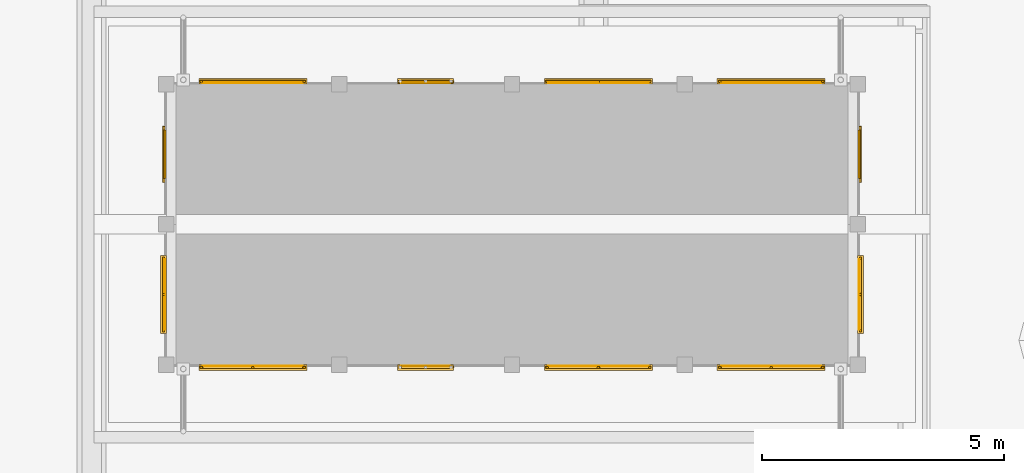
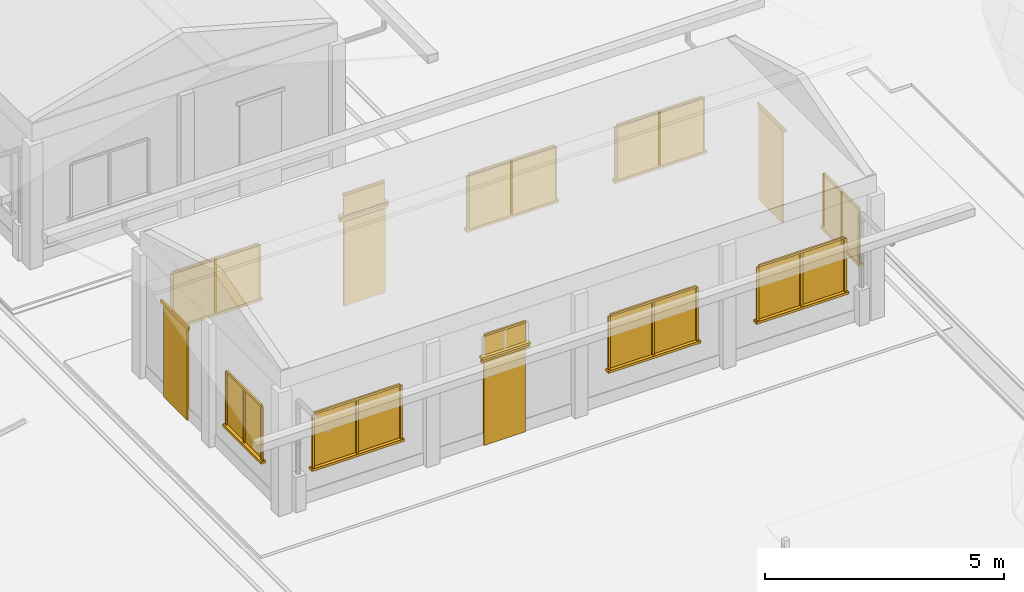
# One storey, part 46 of 177: 54 windows, 8 doors.
"""IFC4 building model written with IfcOpenShell, lengths in metres."""

from ifc_helpers import new_model, si_unit, origin, origin_with_axes, place, context, subcontext, project, spatial, triangles, element, save


model = new_model("IFC4")

# Units and contexts
model_context = context("Model", 3, precision=1e-05, world=origin_with_axes())
body_context = subcontext(model_context, "Body", "Model", "MODEL_VIEW")
ifc_project = project(units=[si_unit("LENGTHUNIT", "METRE"), si_unit("AREAUNIT", "SQUARE_METRE"), si_unit("VOLUMEUNIT", "CUBIC_METRE"), si_unit("PLANEANGLEUNIT", "RADIAN")], contexts=[model_context])

# Site, building, storey
site_placement = place(None, origin_with_axes())
site = spatial("IfcSite", under=ifc_project, at=site_placement, Name="Predio Los Mangos - Morales, San Martín", CompositionType="ELEMENT")
building_placement = place(site_placement, origin())
building = spatial("IfcBuilding", under=site, at=building_placement, Name="Hogar de Refugio Temporal", CompositionType="ELEMENT")
storey_placement = place(building_placement, origin())
storey = spatial("IfcBuildingStorey", under=building, at=storey_placement, Name="NIVEL 1 (NPT +0.00)", CompositionType="ELEMENT", Elevation=0.0)

# Windows
window_1_placement = place(storey_placement, origin())
element("IfcWindow", 1, at=window_1_placement, inside=storey, Name="E-03_v0_vid", ObjectType="Ventana", PredefinedType="WINDOW", context=body_context, shape_type="Tessellation", body=[
    triangles([(46.0508, 32.46, 1.05), (48.1242, 32.46, 1.05), (48.1242, 32.48, 1.05), (46.0508, 32.48, 1.05), (46.0508, 32.46, 2.4), (48.1242, 32.46, 2.4), (48.1242, 32.48, 2.4), (46.0508, 32.48, 2.4)], [[1, 4, 3], [1, 3, 2], [5, 6, 7], [5, 7, 8], [1, 2, 6], [1, 6, 5], [2, 3, 7], [2, 7, 6], [3, 4, 8], [3, 8, 7], [4, 1, 5], [4, 5, 8]]),
])
window_2_placement = place(storey_placement, origin())
element("IfcWindow", 2, at=window_2_placement, inside=storey, Name="E-03_v0_m", ObjectType="Ventana", PredefinedType="WINDOW", context=body_context, shape_type="Tessellation", body=[
    triangles([(46.0008, 32.42, 1.05), (46.0508, 32.42, 1.05), (46.0508, 32.46, 1.05), (46.0008, 32.46, 1.05), (46.0008, 32.42, 2.4), (46.0508, 32.42, 2.4), (46.0508, 32.46, 2.4), (46.0008, 32.46, 2.4)], [[1, 4, 3], [1, 3, 2], [5, 6, 7], [5, 7, 8], [1, 2, 6], [1, 6, 5], [2, 3, 7], [2, 7, 6], [3, 4, 8], [3, 8, 7], [4, 1, 5], [4, 5, 8]]),
])
window_3_placement = place(storey_placement, origin())
element("IfcWindow", 3, at=window_3_placement, inside=storey, Name="E-03_v0_m", ObjectType="Ventana", PredefinedType="WINDOW", context=body_context, shape_type="Tessellation", body=[
    triangles([(48.1242, 32.42, 1.05), (48.1743, 32.42, 1.05), (48.1743, 32.46, 1.05), (48.1242, 32.46, 1.05), (48.1242, 32.42, 2.4), (48.1743, 32.42, 2.4), (48.1743, 32.46, 2.4), (48.1242, 32.46, 2.4)], [[1, 4, 3], [1, 3, 2], [5, 6, 7], [5, 7, 8], [1, 2, 6], [1, 6, 5], [2, 3, 7], [2, 7, 6], [3, 4, 8], [3, 8, 7], [4, 1, 5], [4, 5, 8]]),
])
window_4_placement = place(storey_placement, origin())
element("IfcWindow", 4, at=window_4_placement, inside=storey, Name="E-03_v0_m", ObjectType="Ventana", PredefinedType="WINDOW", context=body_context, shape_type="Tessellation", body=[
    triangles([(46.0508, 32.42, 2.4), (48.1242, 32.42, 2.4), (48.1242, 32.46, 2.4), (46.0508, 32.46, 2.4), (46.0508, 32.42, 2.45), (48.1242, 32.42, 2.45), (48.1242, 32.46, 2.45), (46.0508, 32.46, 2.45)], [[1, 4, 3], [1, 3, 2], [5, 6, 7], [5, 7, 8], [1, 2, 6], [1, 6, 5], [2, 3, 7], [2, 7, 6], [3, 4, 8], [3, 8, 7], [4, 1, 5], [4, 5, 8]]),
])
window_5_placement = place(storey_placement, origin())
element("IfcWindow", 5, at=window_5_placement, inside=storey, Name="E-03_v0_m", ObjectType="Ventana", PredefinedType="WINDOW", context=body_context, shape_type="Tessellation", body=[
    triangles([(47.0625, 32.42, 1.05), (47.1125, 32.42, 1.05), (47.1125, 32.46, 1.05), (47.0625, 32.46, 1.05), (47.0625, 32.42, 2.4), (47.1125, 32.42, 2.4), (47.1125, 32.46, 2.4), (47.0625, 32.46, 2.4)], [[1, 4, 3], [1, 3, 2], [5, 6, 7], [5, 7, 8], [1, 2, 6], [1, 6, 5], [2, 3, 7], [2, 7, 6], [3, 4, 8], [3, 8, 7], [4, 1, 5], [4, 5, 8]]),
])
window_6_placement = place(storey_placement, origin())
element("IfcWindow", 6, at=window_6_placement, inside=storey, Name="E-03_v0_alf", ObjectType="Ventana", PredefinedType="WINDOW", context=body_context, shape_type="Tessellation", body=[
    triangles([(45.9707, 32.5, 0.99), (48.2043, 32.5, 0.99), (48.2043, 32.38, 0.99), (45.9707, 32.38, 0.99), (45.9707, 32.5, 1.05), (48.2043, 32.5, 1.05), (48.2043, 32.38, 1.05), (45.9707, 32.38, 1.05)], [[1, 4, 3], [1, 3, 2], [5, 6, 7], [5, 7, 8], [1, 2, 6], [1, 6, 5], [2, 3, 7], [2, 7, 6], [3, 4, 8], [3, 8, 7], [4, 1, 5], [4, 5, 8]]),
])

# Doors
door_1_placement = place(storey_placement, origin())
element("IfcDoor", 7, at=door_1_placement, inside=storey, Name="E-03_p1", ObjectType="Puerta", PredefinedType="DOOR", context=body_context, shape_type="Tessellation", body=[
    triangles([(50.1625, 32.45, 0.15), (51.1625, 32.45, 0.15), (51.1625, 32.49, 0.15), (50.1625, 32.49, 0.15), (50.1625, 32.45, 2.3), (51.1625, 32.45, 2.3), (51.1625, 32.49, 2.3), (50.1625, 32.49, 2.3)], [[1, 4, 3], [1, 3, 2], [5, 6, 7], [5, 7, 8], [1, 2, 6], [1, 6, 5], [2, 3, 7], [2, 7, 6], [3, 4, 8], [3, 8, 7], [4, 1, 5], [4, 5, 8]]),
])
door_2_placement = place(storey_placement, origin())
element("IfcDoor", 8, at=door_2_placement, inside=storey, Name="E-03_p1_marco", ObjectType="Puerta", PredefinedType="DOOR", context=body_context, shape_type="Tessellation", body=[
    triangles([(50.0825, 32.43, 2.3), (51.2425, 32.43, 2.3), (51.2425, 32.47, 2.3), (50.0825, 32.47, 2.3), (50.0825, 32.43, 2.38), (51.2425, 32.43, 2.38), (51.2425, 32.47, 2.38), (50.0825, 32.47, 2.38)], [[1, 4, 3], [1, 3, 2], [5, 6, 7], [5, 7, 8], [1, 2, 6], [1, 6, 5], [2, 3, 7], [2, 7, 6], [3, 4, 8], [3, 8, 7], [4, 1, 5], [4, 5, 8]]),
])

# Windows
window_7_placement = place(storey_placement, origin())
element("IfcWindow", 9, at=window_7_placement, inside=storey, Name="E-03_vt1_vid", ObjectType="Ventana", PredefinedType="WINDOW", context=body_context, shape_type="Tessellation", body=[
    triangles([(50.1625, 32.46, 2.45), (51.1625, 32.46, 2.45), (51.1625, 32.48, 2.45), (50.1625, 32.48, 2.45), (50.1625, 32.46, 2.95), (51.1625, 32.46, 2.95), (51.1625, 32.48, 2.95), (50.1625, 32.48, 2.95)], [[1, 4, 3], [1, 3, 2], [5, 6, 7], [5, 7, 8], [1, 2, 6], [1, 6, 5], [2, 3, 7], [2, 7, 6], [3, 4, 8], [3, 8, 7], [4, 1, 5], [4, 5, 8]]),
])
window_8_placement = place(storey_placement, origin())
element("IfcWindow", 10, at=window_8_placement, inside=storey, Name="E-03_vt1_m", ObjectType="Ventana", PredefinedType="WINDOW", context=body_context, shape_type="Tessellation", body=[
    triangles([(50.1625, 32.42, 2.95), (51.1625, 32.42, 2.95), (51.1625, 32.46, 2.95), (50.1625, 32.46, 2.95), (50.1625, 32.42, 3.0), (51.1625, 32.42, 3.0), (51.1625, 32.46, 3.0), (50.1625, 32.46, 3.0)], [[1, 4, 3], [1, 3, 2], [5, 6, 7], [5, 7, 8], [1, 2, 6], [1, 6, 5], [2, 3, 7], [2, 7, 6], [3, 4, 8], [3, 8, 7], [4, 1, 5], [4, 5, 8]]),
])
window_9_placement = place(storey_placement, origin())
element("IfcWindow", 11, at=window_9_placement, inside=storey, Name="E-03_vt1_alf", ObjectType="Ventana", PredefinedType="WINDOW", context=body_context, shape_type="Tessellation", body=[
    triangles([(50.0825, 32.5, 2.39), (51.2425, 32.5, 2.39), (51.2425, 32.38, 2.39), (50.0825, 32.38, 2.39), (50.0825, 32.5, 2.45), (51.2425, 32.5, 2.45), (51.2425, 32.38, 2.45), (50.0825, 32.38, 2.45)], [[1, 4, 3], [1, 3, 2], [5, 6, 7], [5, 7, 8], [1, 2, 6], [1, 6, 5], [2, 3, 7], [2, 7, 6], [3, 4, 8], [3, 8, 7], [4, 1, 5], [4, 5, 8]]),
])
window_10_placement = place(storey_placement, origin())
element("IfcWindow", 12, at=window_10_placement, inside=storey, Name="E-03_v2_vid", ObjectType="Ventana", PredefinedType="WINDOW", context=body_context, shape_type="Tessellation", body=[
    triangles([(53.2007, 32.46, 1.05), (55.2743, 32.46, 1.05), (55.2743, 32.48, 1.05), (53.2007, 32.48, 1.05), (53.2007, 32.46, 2.4), (55.2743, 32.46, 2.4), (55.2743, 32.48, 2.4), (53.2007, 32.48, 2.4)], [[1, 4, 3], [1, 3, 2], [5, 6, 7], [5, 7, 8], [1, 2, 6], [1, 6, 5], [2, 3, 7], [2, 7, 6], [3, 4, 8], [3, 8, 7], [4, 1, 5], [4, 5, 8]]),
])
window_11_placement = place(storey_placement, origin())
element("IfcWindow", 13, at=window_11_placement, inside=storey, Name="E-03_v2_m", ObjectType="Ventana", PredefinedType="WINDOW", context=body_context, shape_type="Tessellation", body=[
    triangles([(53.1507, 32.42, 1.05), (53.2007, 32.42, 1.05), (53.2007, 32.46, 1.05), (53.1507, 32.46, 1.05), (53.1507, 32.42, 2.4), (53.2007, 32.42, 2.4), (53.2007, 32.46, 2.4), (53.1507, 32.46, 2.4)], [[1, 4, 3], [1, 3, 2], [5, 6, 7], [5, 7, 8], [1, 2, 6], [1, 6, 5], [2, 3, 7], [2, 7, 6], [3, 4, 8], [3, 8, 7], [4, 1, 5], [4, 5, 8]]),
])
window_12_placement = place(storey_placement, origin())
element("IfcWindow", 14, at=window_12_placement, inside=storey, Name="E-03_v2_m", ObjectType="Ventana", PredefinedType="WINDOW", context=body_context, shape_type="Tessellation", body=[
    triangles([(55.2743, 32.42, 1.05), (55.3242, 32.42, 1.05), (55.3242, 32.46, 1.05), (55.2743, 32.46, 1.05), (55.2743, 32.42, 2.4), (55.3242, 32.42, 2.4), (55.3242, 32.46, 2.4), (55.2743, 32.46, 2.4)], [[1, 4, 3], [1, 3, 2], [5, 6, 7], [5, 7, 8], [1, 2, 6], [1, 6, 5], [2, 3, 7], [2, 7, 6], [3, 4, 8], [3, 8, 7], [4, 1, 5], [4, 5, 8]]),
])
window_13_placement = place(storey_placement, origin())
element("IfcWindow", 15, at=window_13_placement, inside=storey, Name="E-03_v2_m", ObjectType="Ventana", PredefinedType="WINDOW", context=body_context, shape_type="Tessellation", body=[
    triangles([(53.2007, 32.42, 2.4), (55.2743, 32.42, 2.4), (55.2743, 32.46, 2.4), (53.2007, 32.46, 2.4), (53.2007, 32.42, 2.45), (55.2743, 32.42, 2.45), (55.2743, 32.46, 2.45), (53.2007, 32.46, 2.45)], [[1, 4, 3], [1, 3, 2], [5, 6, 7], [5, 7, 8], [1, 2, 6], [1, 6, 5], [2, 3, 7], [2, 7, 6], [3, 4, 8], [3, 8, 7], [4, 1, 5], [4, 5, 8]]),
])
window_14_placement = place(storey_placement, origin())
element("IfcWindow", 16, at=window_14_placement, inside=storey, Name="E-03_v2_m", ObjectType="Ventana", PredefinedType="WINDOW", context=body_context, shape_type="Tessellation", body=[
    triangles([(54.2125, 32.42, 1.05), (54.2625, 32.42, 1.05), (54.2625, 32.46, 1.05), (54.2125, 32.46, 1.05), (54.2125, 32.42, 2.4), (54.2625, 32.42, 2.4), (54.2625, 32.46, 2.4), (54.2125, 32.46, 2.4)], [[1, 4, 3], [1, 3, 2], [5, 6, 7], [5, 7, 8], [1, 2, 6], [1, 6, 5], [2, 3, 7], [2, 7, 6], [3, 4, 8], [3, 8, 7], [4, 1, 5], [4, 5, 8]]),
])
window_15_placement = place(storey_placement, origin())
element("IfcWindow", 17, at=window_15_placement, inside=storey, Name="E-03_v2_alf", ObjectType="Ventana", PredefinedType="WINDOW", context=body_context, shape_type="Tessellation", body=[
    triangles([(53.1208, 32.5, 0.99), (55.3543, 32.5, 0.99), (55.3543, 32.38, 0.99), (53.1208, 32.38, 0.99), (53.1208, 32.5, 1.05), (55.3543, 32.5, 1.05), (55.3543, 32.38, 1.05), (53.1208, 32.38, 1.05)], [[1, 4, 3], [1, 3, 2], [5, 6, 7], [5, 7, 8], [1, 2, 6], [1, 6, 5], [2, 3, 7], [2, 7, 6], [3, 4, 8], [3, 8, 7], [4, 1, 5], [4, 5, 8]]),
])
window_16_placement = place(storey_placement, origin())
element("IfcWindow", 18, at=window_16_placement, inside=storey, Name="E-03_v3_vid", ObjectType="Ventana", PredefinedType="WINDOW", context=body_context, shape_type="Tessellation", body=[
    triangles([(56.7757, 32.46, 1.05), (58.8493, 32.46, 1.05), (58.8493, 32.48, 1.05), (56.7757, 32.48, 1.05), (56.7757, 32.46, 2.4), (58.8493, 32.46, 2.4), (58.8493, 32.48, 2.4), (56.7757, 32.48, 2.4)], [[1, 4, 3], [1, 3, 2], [5, 6, 7], [5, 7, 8], [1, 2, 6], [1, 6, 5], [2, 3, 7], [2, 7, 6], [3, 4, 8], [3, 8, 7], [4, 1, 5], [4, 5, 8]]),
])
window_17_placement = place(storey_placement, origin())
element("IfcWindow", 19, at=window_17_placement, inside=storey, Name="E-03_v3_m", ObjectType="Ventana", PredefinedType="WINDOW", context=body_context, shape_type="Tessellation", body=[
    triangles([(56.7257, 32.42, 1.05), (56.7757, 32.42, 1.05), (56.7757, 32.46, 1.05), (56.7257, 32.46, 1.05), (56.7257, 32.42, 2.4), (56.7757, 32.42, 2.4), (56.7757, 32.46, 2.4), (56.7257, 32.46, 2.4)], [[1, 4, 3], [1, 3, 2], [5, 6, 7], [5, 7, 8], [1, 2, 6], [1, 6, 5], [2, 3, 7], [2, 7, 6], [3, 4, 8], [3, 8, 7], [4, 1, 5], [4, 5, 8]]),
])
window_18_placement = place(storey_placement, origin())
element("IfcWindow", 20, at=window_18_placement, inside=storey, Name="E-03_v3_m", ObjectType="Ventana", PredefinedType="WINDOW", context=body_context, shape_type="Tessellation", body=[
    triangles([(58.8493, 32.42, 1.05), (58.8993, 32.42, 1.05), (58.8993, 32.46, 1.05), (58.8493, 32.46, 1.05), (58.8493, 32.42, 2.4), (58.8993, 32.42, 2.4), (58.8993, 32.46, 2.4), (58.8493, 32.46, 2.4)], [[1, 4, 3], [1, 3, 2], [5, 6, 7], [5, 7, 8], [1, 2, 6], [1, 6, 5], [2, 3, 7], [2, 7, 6], [3, 4, 8], [3, 8, 7], [4, 1, 5], [4, 5, 8]]),
])
window_19_placement = place(storey_placement, origin())
element("IfcWindow", 21, at=window_19_placement, inside=storey, Name="E-03_v3_m", ObjectType="Ventana", PredefinedType="WINDOW", context=body_context, shape_type="Tessellation", body=[
    triangles([(56.7757, 32.42, 2.4), (58.8493, 32.42, 2.4), (58.8493, 32.46, 2.4), (56.7757, 32.46, 2.4), (56.7757, 32.42, 2.45), (58.8493, 32.42, 2.45), (58.8493, 32.46, 2.45), (56.7757, 32.46, 2.45)], [[1, 4, 3], [1, 3, 2], [5, 6, 7], [5, 7, 8], [1, 2, 6], [1, 6, 5], [2, 3, 7], [2, 7, 6], [3, 4, 8], [3, 8, 7], [4, 1, 5], [4, 5, 8]]),
])
window_20_placement = place(storey_placement, origin())
element("IfcWindow", 22, at=window_20_placement, inside=storey, Name="E-03_v3_m", ObjectType="Ventana", PredefinedType="WINDOW", context=body_context, shape_type="Tessellation", body=[
    triangles([(57.7875, 32.42, 1.05), (57.8375, 32.42, 1.05), (57.8375, 32.46, 1.05), (57.7875, 32.46, 1.05), (57.7875, 32.42, 2.4), (57.8375, 32.42, 2.4), (57.8375, 32.46, 2.4), (57.7875, 32.46, 2.4)], [[1, 4, 3], [1, 3, 2], [5, 6, 7], [5, 7, 8], [1, 2, 6], [1, 6, 5], [2, 3, 7], [2, 7, 6], [3, 4, 8], [3, 8, 7], [4, 1, 5], [4, 5, 8]]),
])
window_21_placement = place(storey_placement, origin())
element("IfcWindow", 23, at=window_21_placement, inside=storey, Name="E-03_v3_alf", ObjectType="Ventana", PredefinedType="WINDOW", context=body_context, shape_type="Tessellation", body=[
    triangles([(56.6958, 32.5, 0.99), (58.9292, 32.5, 0.99), (58.9292, 32.38, 0.99), (56.6958, 32.38, 0.99), (56.6958, 32.5, 1.05), (58.9292, 32.5, 1.05), (58.9292, 32.38, 1.05), (56.6958, 32.38, 1.05)], [[1, 4, 3], [1, 3, 2], [5, 6, 7], [5, 7, 8], [1, 2, 6], [1, 6, 5], [2, 3, 7], [2, 7, 6], [3, 4, 8], [3, 8, 7], [4, 1, 5], [4, 5, 8]]),
])
window_22_placement = place(storey_placement, origin())
element("IfcWindow", 24, at=window_22_placement, inside=storey, Name="E-03_v0_vid", ObjectType="Ventana", PredefinedType="WINDOW", context=body_context, shape_type="Tessellation", body=[
    triangles([(46.0508, 38.32, 1.05), (48.1242, 38.32, 1.05), (48.1242, 38.34, 1.05), (46.0508, 38.34, 1.05), (46.0508, 38.32, 2.4), (48.1242, 38.32, 2.4), (48.1242, 38.34, 2.4), (46.0508, 38.34, 2.4)], [[1, 4, 3], [1, 3, 2], [5, 6, 7], [5, 7, 8], [1, 2, 6], [1, 6, 5], [2, 3, 7], [2, 7, 6], [3, 4, 8], [3, 8, 7], [4, 1, 5], [4, 5, 8]]),
])
window_23_placement = place(storey_placement, origin())
element("IfcWindow", 25, at=window_23_placement, inside=storey, Name="E-03_v0_m", ObjectType="Ventana", PredefinedType="WINDOW", context=body_context, shape_type="Tessellation", body=[
    triangles([(46.0008, 38.34, 1.05), (46.0508, 38.34, 1.05), (46.0508, 38.38, 1.05), (46.0008, 38.38, 1.05), (46.0008, 38.34, 2.4), (46.0508, 38.34, 2.4), (46.0508, 38.38, 2.4), (46.0008, 38.38, 2.4)], [[1, 4, 3], [1, 3, 2], [5, 6, 7], [5, 7, 8], [1, 2, 6], [1, 6, 5], [2, 3, 7], [2, 7, 6], [3, 4, 8], [3, 8, 7], [4, 1, 5], [4, 5, 8]]),
])
window_24_placement = place(storey_placement, origin())
element("IfcWindow", 26, at=window_24_placement, inside=storey, Name="E-03_v0_m", ObjectType="Ventana", PredefinedType="WINDOW", context=body_context, shape_type="Tessellation", body=[
    triangles([(48.1242, 38.34, 1.05), (48.1743, 38.34, 1.05), (48.1743, 38.38, 1.05), (48.1242, 38.38, 1.05), (48.1242, 38.34, 2.4), (48.1743, 38.34, 2.4), (48.1743, 38.38, 2.4), (48.1242, 38.38, 2.4)], [[1, 4, 3], [1, 3, 2], [5, 6, 7], [5, 7, 8], [1, 2, 6], [1, 6, 5], [2, 3, 7], [2, 7, 6], [3, 4, 8], [3, 8, 7], [4, 1, 5], [4, 5, 8]]),
])
window_25_placement = place(storey_placement, origin())
element("IfcWindow", 27, at=window_25_placement, inside=storey, Name="E-03_v0_m", ObjectType="Ventana", PredefinedType="WINDOW", context=body_context, shape_type="Tessellation", body=[
    triangles([(46.0508, 38.34, 2.4), (48.1242, 38.34, 2.4), (48.1242, 38.38, 2.4), (46.0508, 38.38, 2.4), (46.0508, 38.34, 2.45), (48.1242, 38.34, 2.45), (48.1242, 38.38, 2.45), (46.0508, 38.38, 2.45)], [[1, 4, 3], [1, 3, 2], [5, 6, 7], [5, 7, 8], [1, 2, 6], [1, 6, 5], [2, 3, 7], [2, 7, 6], [3, 4, 8], [3, 8, 7], [4, 1, 5], [4, 5, 8]]),
])
window_26_placement = place(storey_placement, origin())
element("IfcWindow", 28, at=window_26_placement, inside=storey, Name="E-03_v0_m", ObjectType="Ventana", PredefinedType="WINDOW", context=body_context, shape_type="Tessellation", body=[
    triangles([(47.0625, 38.34, 1.05), (47.1125, 38.34, 1.05), (47.1125, 38.38, 1.05), (47.0625, 38.38, 1.05), (47.0625, 38.34, 2.4), (47.1125, 38.34, 2.4), (47.1125, 38.38, 2.4), (47.0625, 38.38, 2.4)], [[1, 4, 3], [1, 3, 2], [5, 6, 7], [5, 7, 8], [1, 2, 6], [1, 6, 5], [2, 3, 7], [2, 7, 6], [3, 4, 8], [3, 8, 7], [4, 1, 5], [4, 5, 8]]),
])
window_27_placement = place(storey_placement, origin())
element("IfcWindow", 29, at=window_27_placement, inside=storey, Name="E-03_v0_alf", ObjectType="Ventana", PredefinedType="WINDOW", context=body_context, shape_type="Tessellation", body=[
    triangles([(45.9707, 38.3, 0.99), (48.2043, 38.3, 0.99), (48.2043, 38.42, 0.99), (45.9707, 38.42, 0.99), (45.9707, 38.3, 1.05), (48.2043, 38.3, 1.05), (48.2043, 38.42, 1.05), (45.9707, 38.42, 1.05)], [[1, 4, 3], [1, 3, 2], [5, 6, 7], [5, 7, 8], [1, 2, 6], [1, 6, 5], [2, 3, 7], [2, 7, 6], [3, 4, 8], [3, 8, 7], [4, 1, 5], [4, 5, 8]]),
])

# Doors
door_3_placement = place(storey_placement, origin())
element("IfcDoor", 30, at=door_3_placement, inside=storey, Name="E-03_p1", ObjectType="Puerta", PredefinedType="DOOR", context=body_context, shape_type="Tessellation", body=[
    triangles([(50.1625, 38.31, 0.15), (51.1625, 38.31, 0.15), (51.1625, 38.35, 0.15), (50.1625, 38.35, 0.15), (50.1625, 38.31, 2.3), (51.1625, 38.31, 2.3), (51.1625, 38.35, 2.3), (50.1625, 38.35, 2.3)], [[1, 4, 3], [1, 3, 2], [5, 6, 7], [5, 7, 8], [1, 2, 6], [1, 6, 5], [2, 3, 7], [2, 7, 6], [3, 4, 8], [3, 8, 7], [4, 1, 5], [4, 5, 8]]),
])
door_4_placement = place(storey_placement, origin())
element("IfcDoor", 31, at=door_4_placement, inside=storey, Name="E-03_p1_marco", ObjectType="Puerta", PredefinedType="DOOR", context=body_context, shape_type="Tessellation", body=[
    triangles([(50.0825, 38.33, 2.3), (51.2425, 38.33, 2.3), (51.2425, 38.37, 2.3), (50.0825, 38.37, 2.3), (50.0825, 38.33, 2.38), (51.2425, 38.33, 2.38), (51.2425, 38.37, 2.38), (50.0825, 38.37, 2.38)], [[1, 4, 3], [1, 3, 2], [5, 6, 7], [5, 7, 8], [1, 2, 6], [1, 6, 5], [2, 3, 7], [2, 7, 6], [3, 4, 8], [3, 8, 7], [4, 1, 5], [4, 5, 8]]),
])

# Windows
window_28_placement = place(storey_placement, origin())
element("IfcWindow", 32, at=window_28_placement, inside=storey, Name="E-03_vt1_vid", ObjectType="Ventana", PredefinedType="WINDOW", context=body_context, shape_type="Tessellation", body=[
    triangles([(50.1625, 38.32, 2.45), (51.1625, 38.32, 2.45), (51.1625, 38.34, 2.45), (50.1625, 38.34, 2.45), (50.1625, 38.32, 2.95), (51.1625, 38.32, 2.95), (51.1625, 38.34, 2.95), (50.1625, 38.34, 2.95)], [[1, 4, 3], [1, 3, 2], [5, 6, 7], [5, 7, 8], [1, 2, 6], [1, 6, 5], [2, 3, 7], [2, 7, 6], [3, 4, 8], [3, 8, 7], [4, 1, 5], [4, 5, 8]]),
])
window_29_placement = place(storey_placement, origin())
element("IfcWindow", 33, at=window_29_placement, inside=storey, Name="E-03_vt1_m", ObjectType="Ventana", PredefinedType="WINDOW", context=body_context, shape_type="Tessellation", body=[
    triangles([(50.1625, 38.34, 2.95), (51.1625, 38.34, 2.95), (51.1625, 38.38, 2.95), (50.1625, 38.38, 2.95), (50.1625, 38.34, 3.0), (51.1625, 38.34, 3.0), (51.1625, 38.38, 3.0), (50.1625, 38.38, 3.0)], [[1, 4, 3], [1, 3, 2], [5, 6, 7], [5, 7, 8], [1, 2, 6], [1, 6, 5], [2, 3, 7], [2, 7, 6], [3, 4, 8], [3, 8, 7], [4, 1, 5], [4, 5, 8]]),
])
window_30_placement = place(storey_placement, origin())
element("IfcWindow", 34, at=window_30_placement, inside=storey, Name="E-03_vt1_alf", ObjectType="Ventana", PredefinedType="WINDOW", context=body_context, shape_type="Tessellation", body=[
    triangles([(50.0825, 38.3, 2.39), (51.2425, 38.3, 2.39), (51.2425, 38.42, 2.39), (50.0825, 38.42, 2.39), (50.0825, 38.3, 2.45), (51.2425, 38.3, 2.45), (51.2425, 38.42, 2.45), (50.0825, 38.42, 2.45)], [[1, 4, 3], [1, 3, 2], [5, 6, 7], [5, 7, 8], [1, 2, 6], [1, 6, 5], [2, 3, 7], [2, 7, 6], [3, 4, 8], [3, 8, 7], [4, 1, 5], [4, 5, 8]]),
])
window_31_placement = place(storey_placement, origin())
element("IfcWindow", 35, at=window_31_placement, inside=storey, Name="E-03_v2_vid", ObjectType="Ventana", PredefinedType="WINDOW", context=body_context, shape_type="Tessellation", body=[
    triangles([(53.2007, 38.32, 1.05), (55.2743, 38.32, 1.05), (55.2743, 38.34, 1.05), (53.2007, 38.34, 1.05), (53.2007, 38.32, 2.4), (55.2743, 38.32, 2.4), (55.2743, 38.34, 2.4), (53.2007, 38.34, 2.4)], [[1, 4, 3], [1, 3, 2], [5, 6, 7], [5, 7, 8], [1, 2, 6], [1, 6, 5], [2, 3, 7], [2, 7, 6], [3, 4, 8], [3, 8, 7], [4, 1, 5], [4, 5, 8]]),
])
window_32_placement = place(storey_placement, origin())
element("IfcWindow", 36, at=window_32_placement, inside=storey, Name="E-03_v2_m", ObjectType="Ventana", PredefinedType="WINDOW", context=body_context, shape_type="Tessellation", body=[
    triangles([(53.1507, 38.34, 1.05), (53.2007, 38.34, 1.05), (53.2007, 38.38, 1.05), (53.1507, 38.38, 1.05), (53.1507, 38.34, 2.4), (53.2007, 38.34, 2.4), (53.2007, 38.38, 2.4), (53.1507, 38.38, 2.4)], [[1, 4, 3], [1, 3, 2], [5, 6, 7], [5, 7, 8], [1, 2, 6], [1, 6, 5], [2, 3, 7], [2, 7, 6], [3, 4, 8], [3, 8, 7], [4, 1, 5], [4, 5, 8]]),
])
window_33_placement = place(storey_placement, origin())
element("IfcWindow", 37, at=window_33_placement, inside=storey, Name="E-03_v2_m", ObjectType="Ventana", PredefinedType="WINDOW", context=body_context, shape_type="Tessellation", body=[
    triangles([(55.2743, 38.34, 1.05), (55.3242, 38.34, 1.05), (55.3242, 38.38, 1.05), (55.2743, 38.38, 1.05), (55.2743, 38.34, 2.4), (55.3242, 38.34, 2.4), (55.3242, 38.38, 2.4), (55.2743, 38.38, 2.4)], [[1, 4, 3], [1, 3, 2], [5, 6, 7], [5, 7, 8], [1, 2, 6], [1, 6, 5], [2, 3, 7], [2, 7, 6], [3, 4, 8], [3, 8, 7], [4, 1, 5], [4, 5, 8]]),
])
window_34_placement = place(storey_placement, origin())
element("IfcWindow", 38, at=window_34_placement, inside=storey, Name="E-03_v2_m", ObjectType="Ventana", PredefinedType="WINDOW", context=body_context, shape_type="Tessellation", body=[
    triangles([(53.2007, 38.34, 2.4), (55.2743, 38.34, 2.4), (55.2743, 38.38, 2.4), (53.2007, 38.38, 2.4), (53.2007, 38.34, 2.45), (55.2743, 38.34, 2.45), (55.2743, 38.38, 2.45), (53.2007, 38.38, 2.45)], [[1, 4, 3], [1, 3, 2], [5, 6, 7], [5, 7, 8], [1, 2, 6], [1, 6, 5], [2, 3, 7], [2, 7, 6], [3, 4, 8], [3, 8, 7], [4, 1, 5], [4, 5, 8]]),
])
window_35_placement = place(storey_placement, origin())
element("IfcWindow", 39, at=window_35_placement, inside=storey, Name="E-03_v2_m", ObjectType="Ventana", PredefinedType="WINDOW", context=body_context, shape_type="Tessellation", body=[
    triangles([(54.2125, 38.34, 1.05), (54.2625, 38.34, 1.05), (54.2625, 38.38, 1.05), (54.2125, 38.38, 1.05), (54.2125, 38.34, 2.4), (54.2625, 38.34, 2.4), (54.2625, 38.38, 2.4), (54.2125, 38.38, 2.4)], [[1, 4, 3], [1, 3, 2], [5, 6, 7], [5, 7, 8], [1, 2, 6], [1, 6, 5], [2, 3, 7], [2, 7, 6], [3, 4, 8], [3, 8, 7], [4, 1, 5], [4, 5, 8]]),
])
window_36_placement = place(storey_placement, origin())
element("IfcWindow", 40, at=window_36_placement, inside=storey, Name="E-03_v2_alf", ObjectType="Ventana", PredefinedType="WINDOW", context=body_context, shape_type="Tessellation", body=[
    triangles([(53.1208, 38.3, 0.99), (55.3543, 38.3, 0.99), (55.3543, 38.42, 0.99), (53.1208, 38.42, 0.99), (53.1208, 38.3, 1.05), (55.3543, 38.3, 1.05), (55.3543, 38.42, 1.05), (53.1208, 38.42, 1.05)], [[1, 4, 3], [1, 3, 2], [5, 6, 7], [5, 7, 8], [1, 2, 6], [1, 6, 5], [2, 3, 7], [2, 7, 6], [3, 4, 8], [3, 8, 7], [4, 1, 5], [4, 5, 8]]),
])
window_37_placement = place(storey_placement, origin())
element("IfcWindow", 41, at=window_37_placement, inside=storey, Name="E-03_v3_vid", ObjectType="Ventana", PredefinedType="WINDOW", context=body_context, shape_type="Tessellation", body=[
    triangles([(56.7757, 38.32, 1.05), (58.8493, 38.32, 1.05), (58.8493, 38.34, 1.05), (56.7757, 38.34, 1.05), (56.7757, 38.32, 2.4), (58.8493, 38.32, 2.4), (58.8493, 38.34, 2.4), (56.7757, 38.34, 2.4)], [[1, 4, 3], [1, 3, 2], [5, 6, 7], [5, 7, 8], [1, 2, 6], [1, 6, 5], [2, 3, 7], [2, 7, 6], [3, 4, 8], [3, 8, 7], [4, 1, 5], [4, 5, 8]]),
])
window_38_placement = place(storey_placement, origin())
element("IfcWindow", 42, at=window_38_placement, inside=storey, Name="E-03_v3_m", ObjectType="Ventana", PredefinedType="WINDOW", context=body_context, shape_type="Tessellation", body=[
    triangles([(56.7257, 38.34, 1.05), (56.7757, 38.34, 1.05), (56.7757, 38.38, 1.05), (56.7257, 38.38, 1.05), (56.7257, 38.34, 2.4), (56.7757, 38.34, 2.4), (56.7757, 38.38, 2.4), (56.7257, 38.38, 2.4)], [[1, 4, 3], [1, 3, 2], [5, 6, 7], [5, 7, 8], [1, 2, 6], [1, 6, 5], [2, 3, 7], [2, 7, 6], [3, 4, 8], [3, 8, 7], [4, 1, 5], [4, 5, 8]]),
])
window_39_placement = place(storey_placement, origin())
element("IfcWindow", 43, at=window_39_placement, inside=storey, Name="E-03_v3_m", ObjectType="Ventana", PredefinedType="WINDOW", context=body_context, shape_type="Tessellation", body=[
    triangles([(58.8493, 38.34, 1.05), (58.8993, 38.34, 1.05), (58.8993, 38.38, 1.05), (58.8493, 38.38, 1.05), (58.8493, 38.34, 2.4), (58.8993, 38.34, 2.4), (58.8993, 38.38, 2.4), (58.8493, 38.38, 2.4)], [[1, 4, 3], [1, 3, 2], [5, 6, 7], [5, 7, 8], [1, 2, 6], [1, 6, 5], [2, 3, 7], [2, 7, 6], [3, 4, 8], [3, 8, 7], [4, 1, 5], [4, 5, 8]]),
])
window_40_placement = place(storey_placement, origin())
element("IfcWindow", 44, at=window_40_placement, inside=storey, Name="E-03_v3_m", ObjectType="Ventana", PredefinedType="WINDOW", context=body_context, shape_type="Tessellation", body=[
    triangles([(56.7757, 38.34, 2.4), (58.8493, 38.34, 2.4), (58.8493, 38.38, 2.4), (56.7757, 38.38, 2.4), (56.7757, 38.34, 2.45), (58.8493, 38.34, 2.45), (58.8493, 38.38, 2.45), (56.7757, 38.38, 2.45)], [[1, 4, 3], [1, 3, 2], [5, 6, 7], [5, 7, 8], [1, 2, 6], [1, 6, 5], [2, 3, 7], [2, 7, 6], [3, 4, 8], [3, 8, 7], [4, 1, 5], [4, 5, 8]]),
])
window_41_placement = place(storey_placement, origin())
element("IfcWindow", 45, at=window_41_placement, inside=storey, Name="E-03_v3_m", ObjectType="Ventana", PredefinedType="WINDOW", context=body_context, shape_type="Tessellation", body=[
    triangles([(57.7875, 38.34, 1.05), (57.8375, 38.34, 1.05), (57.8375, 38.38, 1.05), (57.7875, 38.38, 1.05), (57.7875, 38.34, 2.4), (57.8375, 38.34, 2.4), (57.8375, 38.38, 2.4), (57.7875, 38.38, 2.4)], [[1, 4, 3], [1, 3, 2], [5, 6, 7], [5, 7, 8], [1, 2, 6], [1, 6, 5], [2, 3, 7], [2, 7, 6], [3, 4, 8], [3, 8, 7], [4, 1, 5], [4, 5, 8]]),
])
window_42_placement = place(storey_placement, origin())
element("IfcWindow", 46, at=window_42_placement, inside=storey, Name="E-03_v3_alf", ObjectType="Ventana", PredefinedType="WINDOW", context=body_context, shape_type="Tessellation", body=[
    triangles([(56.6958, 38.3, 0.99), (58.9292, 38.3, 0.99), (58.9292, 38.42, 0.99), (56.6958, 38.42, 0.99), (56.6958, 38.3, 1.05), (58.9292, 38.3, 1.05), (58.9292, 38.42, 1.05), (56.6958, 38.42, 1.05)], [[1, 4, 3], [1, 3, 2], [5, 6, 7], [5, 7, 8], [1, 2, 6], [1, 6, 5], [2, 3, 7], [2, 7, 6], [3, 4, 8], [3, 8, 7], [4, 1, 5], [4, 5, 8]]),
])
window_43_placement = place(storey_placement, origin())
element("IfcWindow", 47, at=window_43_placement, inside=storey, Name="E-03_vg0_vid", ObjectType="Ventana", PredefinedType="WINDOW", context=body_context, shape_type="Tessellation", body=[
    triangles([(45.26, 33.225, 1.05), (45.28, 33.225, 1.05), (45.28, 34.675, 1.05), (45.26, 34.675, 1.05), (45.26, 33.225, 2.4), (45.28, 33.225, 2.4), (45.28, 34.675, 2.4), (45.26, 34.675, 2.4)], [[1, 4, 3], [1, 3, 2], [5, 6, 7], [5, 7, 8], [1, 2, 6], [1, 6, 5], [2, 3, 7], [2, 7, 6], [3, 4, 8], [3, 8, 7], [4, 1, 5], [4, 5, 8]]),
])
window_44_placement = place(storey_placement, origin())
element("IfcWindow", 48, at=window_44_placement, inside=storey, Name="E-03_vg0_m", ObjectType="Ventana", PredefinedType="WINDOW", context=body_context, shape_type="Tessellation", body=[
    triangles([(45.22, 33.175, 1.05), (45.26, 33.175, 1.05), (45.26, 33.225, 1.05), (45.22, 33.225, 1.05), (45.22, 33.175, 2.4), (45.26, 33.175, 2.4), (45.26, 33.225, 2.4), (45.22, 33.225, 2.4)], [[1, 4, 3], [1, 3, 2], [5, 6, 7], [5, 7, 8], [1, 2, 6], [1, 6, 5], [2, 3, 7], [2, 7, 6], [3, 4, 8], [3, 8, 7], [4, 1, 5], [4, 5, 8]]),
])
window_45_placement = place(storey_placement, origin())
element("IfcWindow", 49, at=window_45_placement, inside=storey, Name="E-03_vg0_m", ObjectType="Ventana", PredefinedType="WINDOW", context=body_context, shape_type="Tessellation", body=[
    triangles([(45.22, 34.675, 1.05), (45.26, 34.675, 1.05), (45.26, 34.725, 1.05), (45.22, 34.725, 1.05), (45.22, 34.675, 2.4), (45.26, 34.675, 2.4), (45.26, 34.725, 2.4), (45.22, 34.725, 2.4)], [[1, 4, 3], [1, 3, 2], [5, 6, 7], [5, 7, 8], [1, 2, 6], [1, 6, 5], [2, 3, 7], [2, 7, 6], [3, 4, 8], [3, 8, 7], [4, 1, 5], [4, 5, 8]]),
])
window_46_placement = place(storey_placement, origin())
element("IfcWindow", 50, at=window_46_placement, inside=storey, Name="E-03_vg0_m", ObjectType="Ventana", PredefinedType="WINDOW", context=body_context, shape_type="Tessellation", body=[
    triangles([(45.22, 33.225, 2.4), (45.26, 33.225, 2.4), (45.26, 34.675, 2.4), (45.22, 34.675, 2.4), (45.22, 33.225, 2.45), (45.26, 33.225, 2.45), (45.26, 34.675, 2.45), (45.22, 34.675, 2.45)], [[1, 4, 3], [1, 3, 2], [5, 6, 7], [5, 7, 8], [1, 2, 6], [1, 6, 5], [2, 3, 7], [2, 7, 6], [3, 4, 8], [3, 8, 7], [4, 1, 5], [4, 5, 8]]),
])
window_47_placement = place(storey_placement, origin())
element("IfcWindow", 51, at=window_47_placement, inside=storey, Name="E-03_vg0_m", ObjectType="Ventana", PredefinedType="WINDOW", context=body_context, shape_type="Tessellation", body=[
    triangles([(45.22, 33.925, 1.05), (45.26, 33.925, 1.05), (45.26, 33.975, 1.05), (45.22, 33.975, 1.05), (45.22, 33.925, 2.4), (45.26, 33.925, 2.4), (45.26, 33.975, 2.4), (45.22, 33.975, 2.4)], [[1, 4, 3], [1, 3, 2], [5, 6, 7], [5, 7, 8], [1, 2, 6], [1, 6, 5], [2, 3, 7], [2, 7, 6], [3, 4, 8], [3, 8, 7], [4, 1, 5], [4, 5, 8]]),
])
window_48_placement = place(storey_placement, origin())
element("IfcWindow", 52, at=window_48_placement, inside=storey, Name="E-03_vg0_alf", ObjectType="Ventana", PredefinedType="WINDOW", context=body_context, shape_type="Tessellation", body=[
    triangles([(45.3, 33.145, 0.99), (45.18, 33.145, 0.99), (45.18, 34.755, 0.99), (45.3, 34.755, 0.99), (45.3, 33.145, 1.05), (45.18, 33.145, 1.05), (45.18, 34.755, 1.05), (45.3, 34.755, 1.05)], [[1, 4, 3], [1, 3, 2], [5, 6, 7], [5, 7, 8], [1, 2, 6], [1, 6, 5], [2, 3, 7], [2, 7, 6], [3, 4, 8], [3, 8, 7], [4, 1, 5], [4, 5, 8]]),
])

# Doors
door_5_placement = place(storey_placement, origin())
element("IfcDoor", 53, at=door_5_placement, inside=storey, Name="E-03_pp", ObjectType="Puerta", PredefinedType="DOOR", context=body_context, shape_type="Tessellation", body=[
    triangles([(45.25, 36.35, 0.15), (45.29, 36.35, 0.15), (45.29, 37.35, 0.15), (45.25, 37.35, 0.15), (45.25, 36.35, 2.5), (45.29, 36.35, 2.5), (45.29, 37.35, 2.5), (45.25, 37.35, 2.5)], [[1, 4, 3], [1, 3, 2], [5, 6, 7], [5, 7, 8], [1, 2, 6], [1, 6, 5], [2, 3, 7], [2, 7, 6], [3, 4, 8], [3, 8, 7], [4, 1, 5], [4, 5, 8]]),
])
door_6_placement = place(storey_placement, origin())
element("IfcDoor", 54, at=door_6_placement, inside=storey, Name="E-03_pp_marco", ObjectType="Puerta", PredefinedType="DOOR", context=body_context, shape_type="Tessellation", body=[
    triangles([(45.23, 36.27, 2.5), (45.27, 36.27, 2.5), (45.27, 37.43, 2.5), (45.23, 37.43, 2.5), (45.23, 36.27, 2.58), (45.27, 36.27, 2.58), (45.27, 37.43, 2.58), (45.23, 37.43, 2.58)], [[1, 4, 3], [1, 3, 2], [5, 6, 7], [5, 7, 8], [1, 2, 6], [1, 6, 5], [2, 3, 7], [2, 7, 6], [3, 4, 8], [3, 8, 7], [4, 1, 5], [4, 5, 8]]),
])

# Windows
window_49_placement = place(storey_placement, origin())
element("IfcWindow", 55, at=window_49_placement, inside=storey, Name="E-03_vg0_vid", ObjectType="Ventana", PredefinedType="WINDOW", context=body_context, shape_type="Tessellation", body=[
    triangles([(59.62, 33.225, 1.05), (59.64, 33.225, 1.05), (59.64, 34.675, 1.05), (59.62, 34.675, 1.05), (59.62, 33.225, 2.4), (59.64, 33.225, 2.4), (59.64, 34.675, 2.4), (59.62, 34.675, 2.4)], [[1, 4, 3], [1, 3, 2], [5, 6, 7], [5, 7, 8], [1, 2, 6], [1, 6, 5], [2, 3, 7], [2, 7, 6], [3, 4, 8], [3, 8, 7], [4, 1, 5], [4, 5, 8]]),
])
window_50_placement = place(storey_placement, origin())
element("IfcWindow", 56, at=window_50_placement, inside=storey, Name="E-03_vg0_m", ObjectType="Ventana", PredefinedType="WINDOW", context=body_context, shape_type="Tessellation", body=[
    triangles([(59.64, 33.175, 1.05), (59.68, 33.175, 1.05), (59.68, 33.225, 1.05), (59.64, 33.225, 1.05), (59.64, 33.175, 2.4), (59.68, 33.175, 2.4), (59.68, 33.225, 2.4), (59.64, 33.225, 2.4)], [[1, 4, 3], [1, 3, 2], [5, 6, 7], [5, 7, 8], [1, 2, 6], [1, 6, 5], [2, 3, 7], [2, 7, 6], [3, 4, 8], [3, 8, 7], [4, 1, 5], [4, 5, 8]]),
])
window_51_placement = place(storey_placement, origin())
element("IfcWindow", 57, at=window_51_placement, inside=storey, Name="E-03_vg0_m", ObjectType="Ventana", PredefinedType="WINDOW", context=body_context, shape_type="Tessellation", body=[
    triangles([(59.64, 34.675, 1.05), (59.68, 34.675, 1.05), (59.68, 34.725, 1.05), (59.64, 34.725, 1.05), (59.64, 34.675, 2.4), (59.68, 34.675, 2.4), (59.68, 34.725, 2.4), (59.64, 34.725, 2.4)], [[1, 4, 3], [1, 3, 2], [5, 6, 7], [5, 7, 8], [1, 2, 6], [1, 6, 5], [2, 3, 7], [2, 7, 6], [3, 4, 8], [3, 8, 7], [4, 1, 5], [4, 5, 8]]),
])
window_52_placement = place(storey_placement, origin())
element("IfcWindow", 58, at=window_52_placement, inside=storey, Name="E-03_vg0_m", ObjectType="Ventana", PredefinedType="WINDOW", context=body_context, shape_type="Tessellation", body=[
    triangles([(59.64, 33.225, 2.4), (59.68, 33.225, 2.4), (59.68, 34.675, 2.4), (59.64, 34.675, 2.4), (59.64, 33.225, 2.45), (59.68, 33.225, 2.45), (59.68, 34.675, 2.45), (59.64, 34.675, 2.45)], [[1, 4, 3], [1, 3, 2], [5, 6, 7], [5, 7, 8], [1, 2, 6], [1, 6, 5], [2, 3, 7], [2, 7, 6], [3, 4, 8], [3, 8, 7], [4, 1, 5], [4, 5, 8]]),
])
window_53_placement = place(storey_placement, origin())
element("IfcWindow", 59, at=window_53_placement, inside=storey, Name="E-03_vg0_m", ObjectType="Ventana", PredefinedType="WINDOW", context=body_context, shape_type="Tessellation", body=[
    triangles([(59.64, 33.925, 1.05), (59.68, 33.925, 1.05), (59.68, 33.975, 1.05), (59.64, 33.975, 1.05), (59.64, 33.925, 2.4), (59.68, 33.925, 2.4), (59.68, 33.975, 2.4), (59.64, 33.975, 2.4)], [[1, 4, 3], [1, 3, 2], [5, 6, 7], [5, 7, 8], [1, 2, 6], [1, 6, 5], [2, 3, 7], [2, 7, 6], [3, 4, 8], [3, 8, 7], [4, 1, 5], [4, 5, 8]]),
])
window_54_placement = place(storey_placement, origin())
element("IfcWindow", 60, at=window_54_placement, inside=storey, Name="E-03_vg0_alf", ObjectType="Ventana", PredefinedType="WINDOW", context=body_context, shape_type="Tessellation", body=[
    triangles([(59.6, 33.145, 0.99), (59.72, 33.145, 0.99), (59.72, 34.755, 0.99), (59.6, 34.755, 0.99), (59.6, 33.145, 1.05), (59.72, 33.145, 1.05), (59.72, 34.755, 1.05), (59.6, 34.755, 1.05)], [[1, 4, 3], [1, 3, 2], [5, 6, 7], [5, 7, 8], [1, 2, 6], [1, 6, 5], [2, 3, 7], [2, 7, 6], [3, 4, 8], [3, 8, 7], [4, 1, 5], [4, 5, 8]]),
])

# Doors
door_7_placement = place(storey_placement, origin())
element("IfcDoor", 61, at=door_7_placement, inside=storey, Name="E-03_pp", ObjectType="Puerta", PredefinedType="DOOR", context=body_context, shape_type="Tessellation", body=[
    triangles([(59.61, 36.35, 0.15), (59.65, 36.35, 0.15), (59.65, 37.35, 0.15), (59.61, 37.35, 0.15), (59.61, 36.35, 2.5), (59.65, 36.35, 2.5), (59.65, 37.35, 2.5), (59.61, 37.35, 2.5)], [[1, 4, 3], [1, 3, 2], [5, 6, 7], [5, 7, 8], [1, 2, 6], [1, 6, 5], [2, 3, 7], [2, 7, 6], [3, 4, 8], [3, 8, 7], [4, 1, 5], [4, 5, 8]]),
])
door_8_placement = place(storey_placement, origin())
element("IfcDoor", 62, at=door_8_placement, inside=storey, Name="E-03_pp_marco", ObjectType="Puerta", PredefinedType="DOOR", context=body_context, shape_type="Tessellation", body=[
    triangles([(59.63, 36.27, 2.5), (59.67, 36.27, 2.5), (59.67, 37.43, 2.5), (59.63, 37.43, 2.5), (59.63, 36.27, 2.58), (59.67, 36.27, 2.58), (59.67, 37.43, 2.58), (59.63, 37.43, 2.58)], [[1, 4, 3], [1, 3, 2], [5, 6, 7], [5, 7, 8], [1, 2, 6], [1, 6, 5], [2, 3, 7], [2, 7, 6], [3, 4, 8], [3, 8, 7], [4, 1, 5], [4, 5, 8]]),
])

save(model, "model.ifc")
